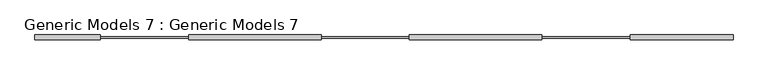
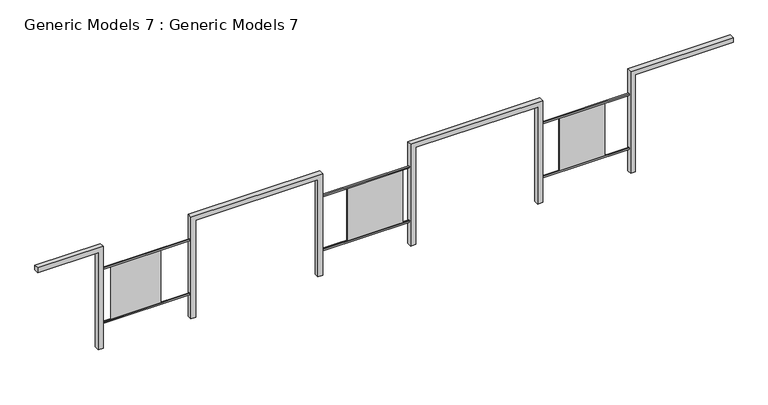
"""IFC4 building model written with IfcOpenShell, lengths in millimetres: proxy geometry, Generic Models 7 : Generic Models 7."""

from ifc_helpers import new_model, si_unit, frame, origin, place, context, project, spatial, polyline, outline, extrude, source, transform, mapped, element, save


def generic_models_7_generic_models_7_20514c4c(model_context):
    return source(origin(), model_context, "Body", "SweptSolid", [
        extrude(outline(polyline([(21610.8462265, 5510.264194), (21610.8462265, 5520.264194), (22548.8362243, 5520.264194), (22548.8362243, 5510.264194), (21610.8462265, 5510.264194)])), frame((0.0, 0.0, 515.0), z_axis=(0.0, 0.0, 1.0), x_axis=(1.0, 0.0, 0.0)), (0.0, 0.0, 1.0), 1170.0),
        extrude(outline(polyline([(5500.264194, 500.0), (5500.264194, 530.0), (5510.264194, 530.0), (5510.264194, 515.0), (5515.264194, 515.0), (5520.264194, 515.0), (5520.264194, 530.0), (5530.264194, 530.0), (5530.264194, 500.0), (5500.264194, 500.0)])), frame((21245.3362243, 0.0, 0.0), z_axis=(1.0, 0.0, 0.0), x_axis=(0.0, 1.0, 0.0)), (0.0, 0.0, 1.0), 1800.0),
        extrude(outline(polyline([(5500.264194, 1700.0), (5530.264194, 1700.0), (5530.264194, 1670.0), (5520.264194, 1670.0), (5520.264194, 1685.0), (5515.264194, 1685.0), (5510.264194, 1685.0), (5510.264194, 1670.0), (5500.264194, 1670.0), (5500.264194, 1700.0)])), frame((21245.3362243, 0.0, 0.0), z_axis=(1.0, 0.0, 0.0), x_axis=(0.0, 1.0, 0.0)), (0.0, 0.0, 1.0), 1800.0),
        extrude(outline(polyline([(17268.1702458, 5510.264194), (17268.1702458, 5520.264194), (18405.3362243, 5520.264194), (18405.3362243, 5510.264194), (17268.1702458, 5510.264194)])), frame((0.0, 0.0, 515.0), z_axis=(0.0, 0.0, 1.0), x_axis=(1.0, 0.0, 0.0)), (0.0, 0.0, 1.0), 1170.0),
        extrude(outline(polyline([(5500.264194, 500.0), (5500.264194, 530.0), (5510.264194, 530.0), (5510.264194, 515.0), (5515.264194, 515.0), (5520.264194, 515.0), (5520.264194, 530.0), (5530.264194, 530.0), (5530.264194, 500.0), (5500.264194, 500.0)])), frame((16745.3362243, 0.0, 0.0), z_axis=(1.0, 0.0, 0.0), x_axis=(0.0, 1.0, 0.0)), (0.0, 0.0, 1.0), 1800.0),
        extrude(outline(polyline([(5500.264194, 1700.0), (5530.264194, 1700.0), (5530.264194, 1670.0), (5520.264194, 1670.0), (5520.264194, 1685.0), (5515.264194, 1685.0), (5510.264194, 1685.0), (5510.264194, 1670.0), (5500.264194, 1670.0), (5500.264194, 1700.0)])), frame((16745.3362243, 0.0, 0.0), z_axis=(1.0, 0.0, 0.0), x_axis=(0.0, 1.0, 0.0)), (0.0, 0.0, 1.0), 1800.0),
        extrude(outline(polyline([(12432.6610494, 5510.264194), (12432.6610494, 5520.264194), (13448.8362243, 5520.264194), (13448.8362243, 5510.264194), (12432.6610494, 5510.264194)])), frame((0.0, 0.0, 515.0), z_axis=(0.0, 0.0, 1.0), x_axis=(1.0, 0.0, 0.0)), (0.0, 0.0, 1.0), 1170.0),
        extrude(outline(polyline([(5500.264194, 500.0), (5500.264194, 530.0), (5510.264194, 530.0), (5510.264194, 515.0), (5515.264194, 515.0), (5520.264194, 515.0), (5520.264194, 530.0), (5530.264194, 530.0), (5530.264194, 500.0), (5500.264194, 500.0)])), frame((12245.3362243, 0.0, 0.0), z_axis=(1.0, 0.0, 0.0), x_axis=(0.0, 1.0, 0.0)), (0.0, 0.0, 1.0), 1800.0),
        extrude(outline(polyline([(5500.264194, 1700.0), (5530.264194, 1700.0), (5530.264194, 1670.0), (5520.264194, 1670.0), (5520.264194, 1685.0), (5515.264194, 1685.0), (5510.264194, 1685.0), (5510.264194, 1670.0), (5500.264194, 1670.0), (5500.264194, 1700.0)])), frame((12245.3362243, 0.0, 0.0), z_axis=(1.0, 0.0, 0.0), x_axis=(0.0, 1.0, 0.0)), (0.0, 0.0, 1.0), 1800.0),
        extrude(outline(polyline([(2200.0, 10908.8362243), (2100.0, 10908.8362243), (2100.0, 12145.3362243), (0.0, 12145.3362243), (0.0, 12245.3362243), (2200.0, 12245.3362243), (2200.0, 10908.8362243)])), frame((0.0, 5465.264194, 0.0), z_axis=(0.0, 1.0, 0.0), x_axis=(0.0, 0.0, 1.0)), (0.0, 0.0, 1.0), 100.0),
        extrude(outline(polyline([(0.0, 16645.3362243), (0.0, 16745.3362243), (2200.0, 16745.3362243), (2200.0, 14045.3362243), (0.0, 14045.3362243), (0.0, 14145.3362243), (2100.0, 14145.3362243), (2100.0, 16645.3362243), (0.0, 16645.3362243)])), frame((0.0, 5465.264194, 0.0), z_axis=(0.0, 1.0, 0.0), x_axis=(0.0, 0.0, 1.0)), (0.0, 0.0, 1.0), 100.0),
        extrude(outline(polyline([(0.0, 21145.3362243), (0.0, 21245.3362243), (2200.0, 21245.3362243), (2200.0, 18545.3362243), (0.0, 18545.3362243), (0.0, 18645.3362243), (2100.0, 18645.3362243), (2100.0, 21145.3362243), (0.0, 21145.3362243)])), frame((0.0, 5465.264194, 0.0), z_axis=(0.0, 1.0, 0.0), x_axis=(0.0, 0.0, 1.0)), (0.0, 0.0, 1.0), 100.0),
        extrude(outline(polyline([(2200.0, 25145.3362243), (2200.0, 23045.3362243), (0.0, 23045.3362243), (0.0, 23145.3362243), (2100.0, 23145.3362243), (2100.0, 25145.3362243), (2200.0, 25145.3362243)])), frame((0.0, 5465.264194, 0.0), z_axis=(0.0, 1.0, 0.0), x_axis=(0.0, 0.0, 1.0)), (0.0, 0.0, 1.0), 100.0),
    ])


if __name__ == "__main__":
    model = new_model("IFC4")
    model_context = context("Model", 3, world=origin())
    ifc_project = project(units=[si_unit("LENGTHUNIT", "METRE", prefix="MILLI")], contexts=[model_context])
    site = spatial("IfcSite", under=ifc_project)
    building = spatial("IfcBuilding", under=site)
    placement = place(None, origin())
    generic_models_7_generic_models_7_shape = generic_models_7_generic_models_7_20514c4c(model_context)
    element("IfcBuildingElementProxy", 1, Name="Generic Models 7 : Generic Models 7", ObjectType="Generic Models 7 : Generic Models 7", at=placement, inside=building, context=model_context, shape_type="MappedRepresentation", body=[
        mapped(generic_models_7_generic_models_7_shape, transform((0.0, 0.0, 0.0), x_axis=(1.0, 0.0, 0.0), y_axis=(0.0, 1.0, 0.0), z_axis=(0.0, 0.0, 1.0))),
    ])
    save(model, "model.ifc")
